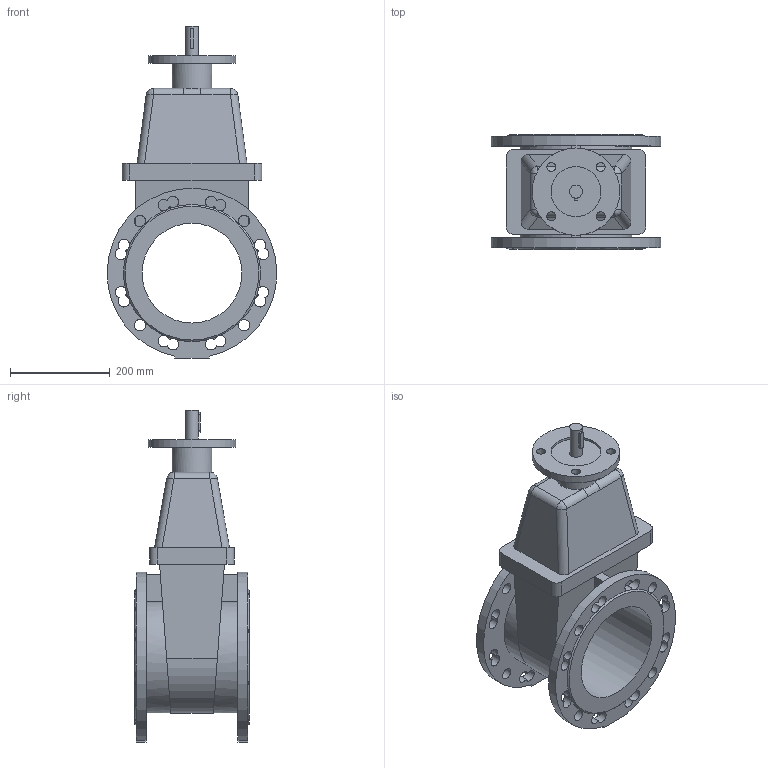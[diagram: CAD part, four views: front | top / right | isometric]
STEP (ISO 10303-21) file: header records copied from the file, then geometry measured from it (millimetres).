
FILE_DESCRIPTION(('STEP AP203'), '1');
FILE_NAME('Çàäâèæêà 47GVA DN200 PN10_PN16 áåç èñïîëíèò. ìåõ.', '', ('UNSPECIFIED'), ('UNSPECIFIED'), 'ASCON STEP Converter 1.6', 'ASCON Math Kernel', '');
FILE_SCHEMA(('CONFIG_CONTROL_DESIGN'));
Length unit declared in the file: millimetre
Bounding box: 339.95 x 230 x 665 mm (x, y, z)
Volume: 12378729.4 mm3; surface area: 849615.8 mm2
Topology: 1 solids, 1 shells, 167 faces, 494 edges, 312 vertices
Faces by surface type: plane 80, cylinder 78, bspline 7, cone 2
Full cylindrical faces by diameter (mm): 18 x4, 23 x8, 26 x1, 80 x1, 100 x1, 175 x1, 200 x1
Entity records: 9403 total; most frequent: CARTESIAN_POINT 3480, DIRECTION 1000, ORIENTED_EDGE 932, EDGE_CURVE 466, AXIS2_PLACEMENT_3D 418, VERTEX_POINT 309, CIRCLE 257, EDGE_LOOP 233
